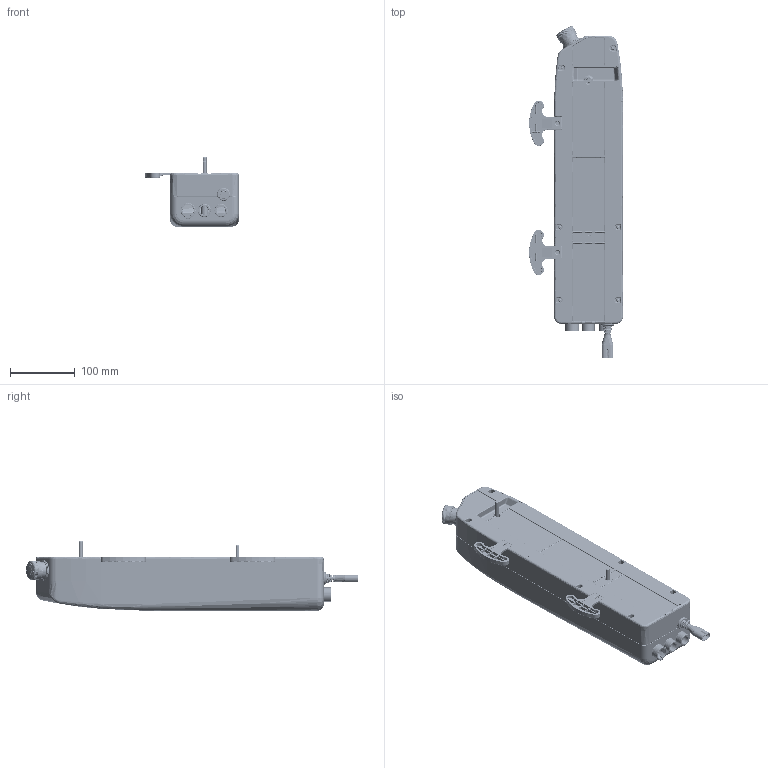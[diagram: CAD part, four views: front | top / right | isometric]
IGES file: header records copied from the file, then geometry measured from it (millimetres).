
Start section:  PTC IGES file: cm42_asm.igs
Global section: file name: cm42_asm.igs; native system: Creo Parametric by Parametric Technology Corporation; preprocessor: 2014200; author: lily; organization: Unknown; date: 20191213.111442; units: millimetre
Bounding box: 144.98 x 513.74 x 107.69 mm (x, y, z)
Surface area: 435916.8 mm2 (no closed solid volume)
Topology: 0 solids, 4757 shells, 4757 faces, 24280 edges, 24118 vertices
Faces by surface type: bspline 2262, revolution 1542, extrusion 953
